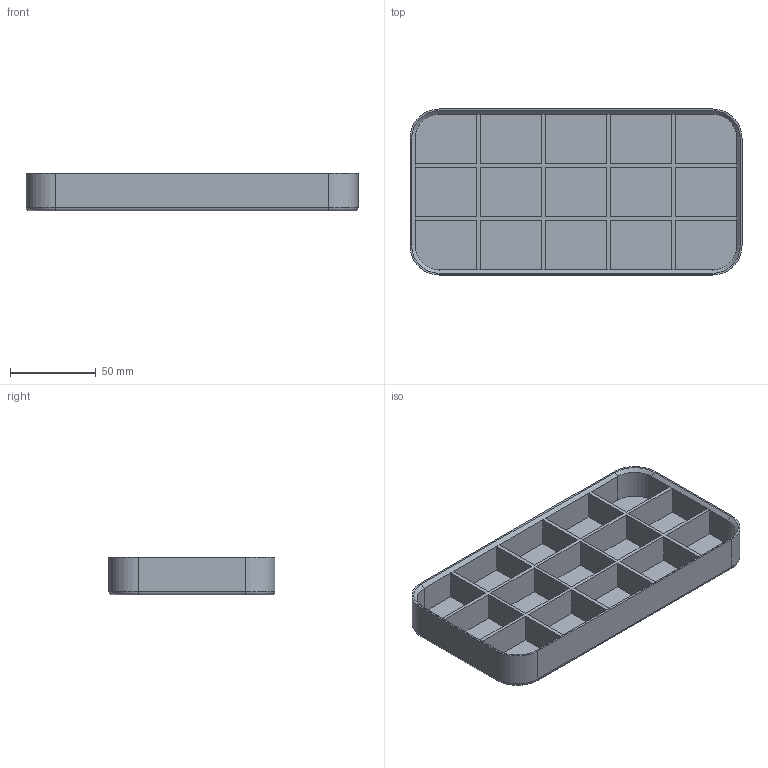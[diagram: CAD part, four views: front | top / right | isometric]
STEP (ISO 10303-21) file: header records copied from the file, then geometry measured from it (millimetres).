
FILE_DESCRIPTION(/* description */ (''),/* implementation_level */ '2;1');
FILE_NAME(/* name */ '2x4_subdivided4.step',/* time_stamp */ '2026-07-09T21:17:02-03:00',/* author */ (''),/* organization */ (''),/* preprocessor_version */ 'ST-DEVELOPER v20.1',/* originating_system */ 'Autodesk Translation Framework v15.8.0.0',/* authorisation */ '');
FILE_SCHEMA (('AUTOMOTIVE_DESIGN { 1 0 10303 214 3 1 1 }'));
Length unit declared in the file: millimetre
Products named in the file (1): Internal tray parametric
Bounding box: 194 x 97 x 22 mm (x, y, z)
Volume: 109750.5 mm3; surface area: 82014.4 mm2
Topology: 1 solids, 1 shells, 106 faces, 260 edges, 160 vertices
Faces by surface type: plane 86, cylinder 12, torus 4, cone 4
Entity records: 3069 total; most frequent: CARTESIAN_POINT 527, ORIENTED_EDGE 520, DIRECTION 506, EDGE_CURVE 260, LINE 228, VECTOR 228, VERTEX_POINT 160, AXIS2_PLACEMENT_3D 139
